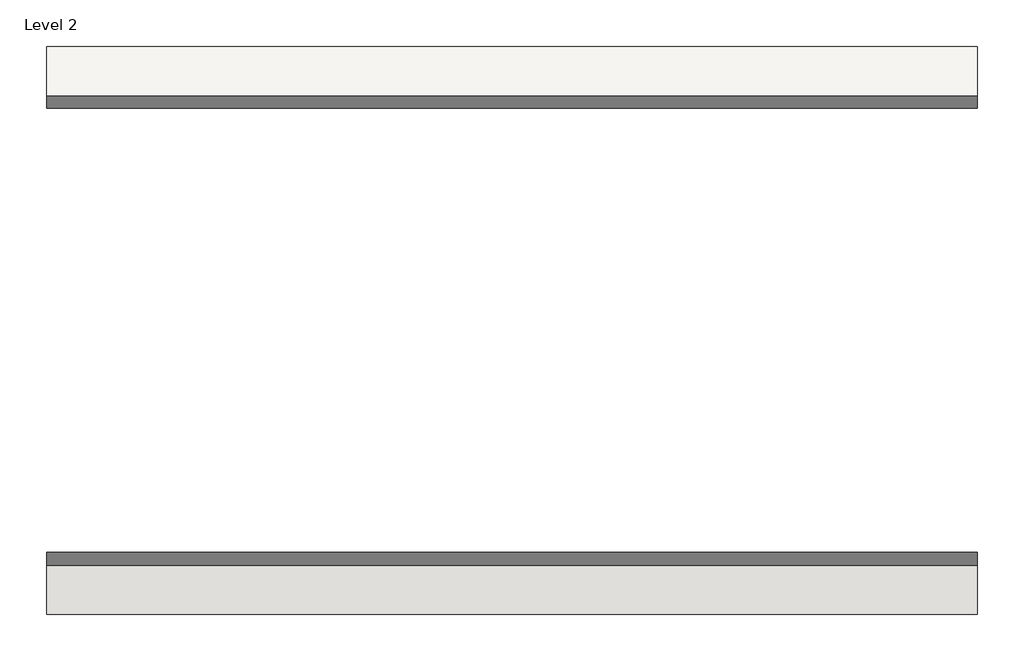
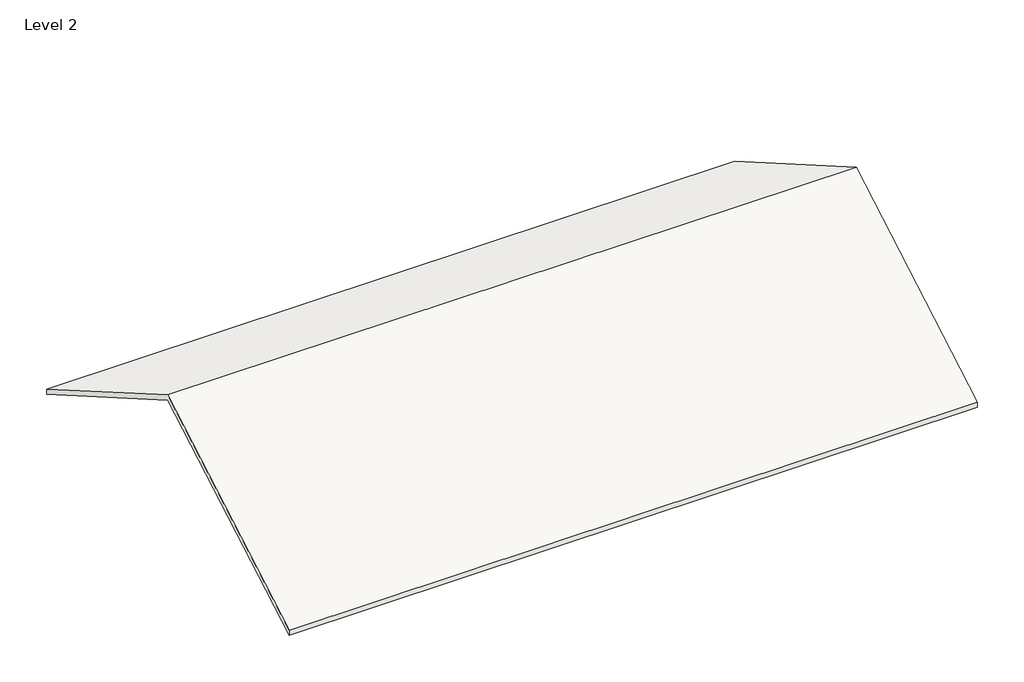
# One storey: 1 roof.
"""IFC4 building model written with IfcOpenShell, lengths in millimetres."""

from ifc_helpers import new_model, si_unit, frame, origin, place, context, project, spatial, polyline, outline, extrude, element, save

model = new_model("IFC4")

# Units and contexts
model_context = context("Model", 3, world=origin())
ifc_project = project(units=[si_unit("LENGTHUNIT", "METRE", prefix="MILLI")], contexts=[model_context])

# Site, building, storey
site = spatial("IfcSite", under=ifc_project)
building = spatial("IfcBuilding", under=site)
storey = spatial("IfcBuildingStorey", under=building, Name="Level 2", Elevation=3048.0)

# Roof
placement = place(None, origin())
element("IfcRoof", 1, ObjectType="Wood Rafter 8\" - Asphalt Shingle - Insulated", at=placement, inside=storey, context=model_context, shape_type="SweptSolid", body=[
    extrude(outline(polyline([(-8245.605806, 3293.646829), (1304.794194, 8808.7541206), (10855.194194, 3293.646829), (10855.194194, 3048.0), (1304.794194, 8563.1072917), (-8245.605806, 3048.0), (-8245.605806, 3293.646829)])), frame((-16424.2600729, 0.0, 0.0), z_axis=(1.0, 0.0, 0.0), x_axis=(0.0, 1.0, 0.0)), (0.0, 0.0, 1.0), 31292.8),
])

save(model, "model.ifc")
